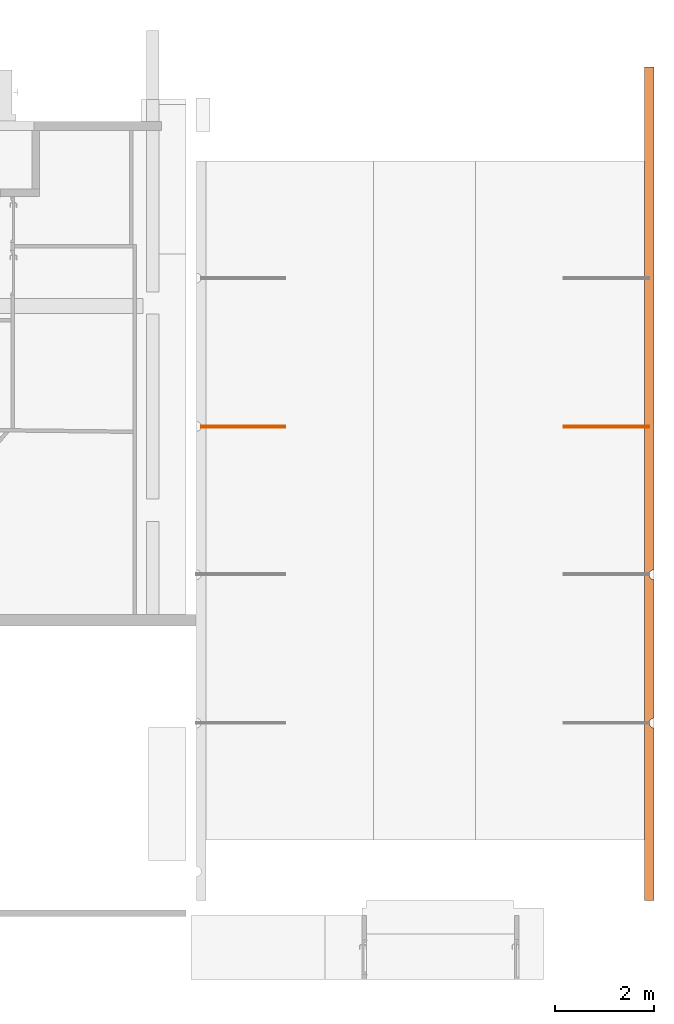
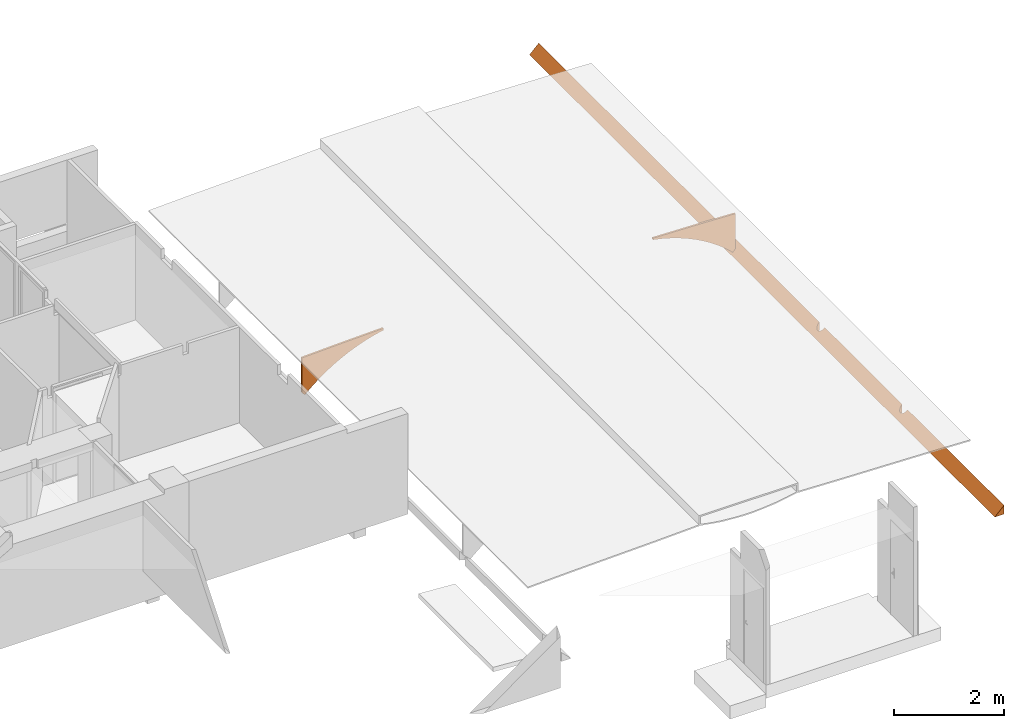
# One storey, part 31 of 32: 2 proxies.
"""IFC4 building model written with IfcOpenShell, lengths in metres."""

import ifcopenshell
import ifcopenshell.guid

model = None  # the IFC model being written
_history = None  # IfcOwnerHistory: only IFC2X3 demands one
_inside = {}  # id of a spatial element -> (the spatial element, [elements in it])
_under = {}  # id of a project, library or spatial element -> (it, [spatial elements below it])
_declared = {}  # id of a project -> (the project, [libraries it declares])
_typed = {}  # id of a type object -> (the type object, [elements of that type])
_made_of = {}  # id of a material, layer set ... -> (it, [elements and type objects made of it])


def new_model(schema):
    """Start an empty IFC model of exactly this schema.

    Asked for "IFC4X3", IfcOpenShell would pick the latest addendum, in which some entities
    have other attributes; the version numbers below select the first issue.
    IFC2X3 requires an IfcOwnerHistory on every rooted entity: one is made here for all.
    """
    global model, _history
    if schema == "IFC4X3":
        model = ifcopenshell.file(schema_version=(4, 3, 0, 0))
    else:
        model = ifcopenshell.file(schema=schema)
    _inside.clear()
    _under.clear()
    _declared.clear()
    _typed.clear()
    _made_of.clear()
    _history = None
    if model.schema == "IFC2X3":
        org = make("IfcOrganization", Name="unknown")
        user = make(
            "IfcPersonAndOrganization",
            ThePerson=make("IfcPerson", FamilyName="unknown"),
            TheOrganization=org,
        )
        app = make(
            "IfcApplication",
            ApplicationDeveloper=org,
            Version="unknown",
            ApplicationFullName="unknown",
            ApplicationIdentifier="unknown",
        )
        _history = make(
            "IfcOwnerHistory",
            OwningUser=user,
            OwningApplication=app,
            ChangeAction="ADDED",
            CreationDate=0,
        )
    return model


def make(cls, **values):
    """One entity of the class cls with the attributes given. An attribute that is None is left unset."""
    return model.create_entity(
        cls, **{name: value for name, value in values.items() if value is not None}
    )


def entity(cls, *values):
    """Any entity or typed value of the class cls, its attributes in the order of the schema. None: left unset."""
    e = model.create_entity(cls)
    for i, value in enumerate(values):
        if value is not None:
            e[i] = value
    return e


def rooted(cls, **values):
    """An entity with a GlobalId (a new one), such as an element, a storey or a relation."""
    return make(cls, GlobalId=ifcopenshell.guid.new(), OwnerHistory=_history, **values)


def si_unit(unit_type, name, prefix=None):
    """IfcSIUnit, for example si_unit("LENGTHUNIT", "METRE", prefix="MILLI")."""
    return make("IfcSIUnit", UnitType=unit_type, Prefix=prefix, Name=name)


def converted_unit(unit_type, name, factor, base, dimensions=None, offset=None):
    """IfcConversionBasedUnit, such as the inch: factor (a typed value) times the base unit."""
    return make(
        "IfcConversionBasedUnit"
        if offset is None
        else "IfcConversionBasedUnitWithOffset",
        ConversionOffset=offset,
        Dimensions=None
        if dimensions is None
        else entity("IfcDimensionalExponents", *dimensions),
        UnitType=unit_type,
        Name=name,
        ConversionFactor=make(
            "IfcMeasureWithUnit", ValueComponent=factor, UnitComponent=base
        ),
    )


def derived_unit(unit_type, elements):
    """IfcDerivedUnit: a product of units, each with its exponent."""
    return make(
        "IfcDerivedUnit",
        Elements=[
            make("IfcDerivedUnitElement", Unit=unit, Exponent=power)
            for unit, power in elements
        ],
        UnitType=unit_type,
    )


def assignment(units):
    """IfcUnitAssignment: the units of a project."""
    return None if units is None else make("IfcUnitAssignment", Units=units)


def point(xyz):
    """IfcCartesianPoint."""
    return None if xyz is None else make("IfcCartesianPoint", Coordinates=xyz)


def direction(xyz):
    """IfcDirection."""
    return None if xyz is None else make("IfcDirection", DirectionRatios=xyz)


def frame(location, z_axis=None, x_axis=None):
    """IfcAxis2Placement3D, a coordinate frame: its origin and axes. An axis left out is left unset."""
    return make(
        "IfcAxis2Placement3D",
        Location=point(location),
        Axis=direction(z_axis),
        RefDirection=direction(x_axis),
    )


def origin():
    """The frame at (0, 0, 0) with its axes left unset."""
    return frame((0.0, 0.0, 0.0))


def place(relative_to, where):
    """IfcLocalPlacement: puts the frame where relative to a parent placement (None: the world)."""
    return make(
        "IfcLocalPlacement", PlacementRelTo=relative_to, RelativePlacement=where
    )


def context(
    kind, dimensions, precision=None, world=None, true_north=None, identifier=None
):
    """IfcGeometricRepresentationContext, for example the 3D "Model" context."""
    return make(
        "IfcGeometricRepresentationContext",
        ContextIdentifier=identifier,
        ContextType=kind,
        CoordinateSpaceDimension=dimensions,
        Precision=precision,
        WorldCoordinateSystem=world,
        TrueNorth=true_north,
    )


def subcontext(parent, identifier, kind, view, scale=None):
    """IfcGeometricRepresentationSubContext, for example "Body" below "Model"."""
    return make(
        "IfcGeometricRepresentationSubContext",
        ContextIdentifier=identifier,
        ContextType=kind,
        ParentContext=parent,
        TargetScale=scale,
        TargetView=view,
    )


def project(units=None, contexts=None):
    """IfcProject with its units and contexts."""
    return rooted(
        "IfcProject",
        Name="project",
        RepresentationContexts=contexts,
        UnitsInContext=assignment(units),
    )


def spatial(cls, under=None, at=None, **own):
    """A site, building, storey or space (cls), placed at a placement, below another one or the project."""
    s = rooted(cls, ObjectPlacement=at, **own)
    if under is not None:
        _under.setdefault(under.id(), (under, []))[1].append(s)
    return s


def point_list(points):
    """IfcCartesianPointList2D or 3D."""
    cls = (
        "IfcCartesianPointList2D" if len(points[0]) == 2 else "IfcCartesianPointList3D"
    )
    return make(cls, CoordList=points)


def polygons(points, faces, closed=None, point_numbers=None):
    """IfcPolygonalFaceSet: a face is its outer loop, then its inner loops; points numbered from 1."""
    made = []
    for loops in faces:
        if len(loops) == 1:
            made.append(make("IfcIndexedPolygonalFace", CoordIndex=loops[0]))
        else:
            made.append(
                make(
                    "IfcIndexedPolygonalFaceWithVoids",
                    CoordIndex=loops[0],
                    InnerCoordIndices=loops[1:],
                )
            )
    return make(
        "IfcPolygonalFaceSet",
        Coordinates=point_list(points),
        Closed=closed,
        Faces=made,
        PnIndex=point_numbers,
    )


def shape(context_of_items, identifier, shape_type, items):
    """IfcShapeRepresentation: the items that make up one representation, for example the "Body"."""
    return make(
        "IfcShapeRepresentation",
        ContextOfItems=context_of_items,
        RepresentationIdentifier=identifier,
        RepresentationType=shape_type,
        Items=items,
    )


def source(mapping_origin, context_of_items, identifier, shape_type, items):
    """IfcRepresentationMap: a shape defined once, which mapped items show again and again."""
    return make(
        "IfcRepresentationMap",
        MappingOrigin=mapping_origin,
        MappedRepresentation=shape(context_of_items, identifier, shape_type, items),
    )


def transform(
    local_origin,
    x_axis=None,
    y_axis=None,
    z_axis=None,
    scale=None,
    scale2=None,
    scale3=None,
    uniform=True,
):
    """IfcCartesianTransformationOperator3D, or its non-uniform kind. x_axis, y_axis, z_axis: its Axis1, 2, 3."""
    if uniform:
        return make(
            "IfcCartesianTransformationOperator3D",
            Axis1=direction(x_axis),
            Axis2=direction(y_axis),
            LocalOrigin=point(local_origin),
            Scale=scale,
            Axis3=direction(z_axis),
        )
    return make(
        "IfcCartesianTransformationOperator3DnonUniform",
        Axis1=direction(x_axis),
        Axis2=direction(y_axis),
        LocalOrigin=point(local_origin),
        Scale=scale,
        Axis3=direction(z_axis),
        Scale2=scale2,
        Scale3=scale3,
    )


def mapped(mapping_source, mapping_target):
    """IfcMappedItem: shows the shape of a source again, moved by a transform."""
    return make(
        "IfcMappedItem", MappingSource=mapping_source, MappingTarget=mapping_target
    )


def material(Name=None, Category=None):
    """IfcMaterial."""
    return make("IfcMaterial", Name=Name, Category=Category)


def made_of(thing, what):
    """Note that an element or type object is made of a material, layer set ...; save() writes the relation."""
    if what is not None:
        _made_of.setdefault(what.id(), (what, []))[1].append(thing)
    return thing


def type_object(cls, material=None, **own):
    """A type object (cls), such as IfcWallType, which elements share."""
    return made_of(rooted(cls, **own), material)


def type_shapes(of_type, sources):
    """Give a type object the sources (RepresentationMaps) that its elements show as mapped items."""
    of_type.RepresentationMaps = sources


def element(
    cls,
    number,
    at=None,
    inside=None,
    cuts=None,
    type_object=None,
    material=None,
    context=None,
    identifier="Body",
    shape_type=None,
    held_by="IfcProductDefinitionShape",
    body=None,
    shapes=None,
    **own,
):
    """One element of the class cls, such as IfcWall. Its Tag is "e" and its number.

    at: its placement. inside: the storey or other place that contains it. cuts: it is an
    opening in that element (IfcRelVoidsElement). A single representation is given by context,
    identifier, shape_type and body (its items); several are given by shapes. held_by: the class
    of the entity that holds the representations. save() writes the other relations.
    """
    e = rooted(cls, Tag="e%d" % number, ObjectPlacement=at, **own)
    if body is not None:
        shapes = [shape(context, identifier, shape_type, body)]
    if shapes is not None:
        e.Representation = make(held_by, Representations=shapes)
    if inside is not None:
        _inside.setdefault(inside.id(), (inside, []))[1].append(e)
    if cuts is not None:
        rooted(
            "IfcRelVoidsElement", RelatingBuildingElement=cuts, RelatedOpeningElement=e
        )
    if type_object is not None:
        _typed.setdefault(type_object.id(), (type_object, []))[1].append(e)
    return made_of(e, material)


def aggregate(whole, parts):
    """IfcRelAggregates: a whole, such as a stair, and the parts it consists of."""
    return rooted("IfcRelAggregates", RelatingObject=whole, RelatedObjects=parts)


def save(model, path):
    """Write the relations noted so far, then the file.

    IfcRelAggregates (storeys below a building ...), IfcRelContainedInSpatialStructure (elements
    in a storey), IfcRelDefinesByType, IfcRelAssociatesMaterial and IfcRelDeclares: one each for
    every whole, place, type object, material and project.
    """
    for whole, parts in _under.values():
        aggregate(whole, parts)
    for where, things in _inside.values():
        rooted(
            "IfcRelContainedInSpatialStructure",
            RelatedElements=things,
            RelatingStructure=where,
        )
    for kind, things in _typed.values():
        rooted("IfcRelDefinesByType", RelatedObjects=things, RelatingType=kind)
    for what, things in _made_of.values():
        rooted("IfcRelAssociatesMaterial", RelatedObjects=things, RelatingMaterial=what)
    for by, libraries in _declared.values():
        rooted("IfcRelDeclares", RelatingContext=by, RelatedDefinitions=libraries)
    model.write(path)


model = new_model("IFC4")

# Units and contexts
model_context = context("Model", 3, precision=1e-05, world=origin(), true_north=direction((6.12303176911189e-17, 1.0)))
body_context = subcontext(model_context, "Body", "Model", "MODEL_VIEW")
ifc_project = project(units=[si_unit("LENGTHUNIT", "METRE"), si_unit("AREAUNIT", "SQUARE_METRE"), si_unit("VOLUMEUNIT", "CUBIC_METRE"), converted_unit("PLANEANGLEUNIT", "DEGREE", entity("IfcRatioMeasure", 0.0174532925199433), si_unit("PLANEANGLEUNIT", "RADIAN"), dimensions=[0, 0, 0, 0, 0, 0, 0]), si_unit("MASSUNIT", "GRAM", prefix="KILO"), derived_unit("MASSDENSITYUNIT", [(si_unit("MASSUNIT", "GRAM", prefix="KILO"), 1), (si_unit("LENGTHUNIT", "METRE"), -3)]), derived_unit("MOMENTOFINERTIAUNIT", [(si_unit("LENGTHUNIT", "METRE"), 4)]), si_unit("TIMEUNIT", "SECOND"), si_unit("FREQUENCYUNIT", "HERTZ"), si_unit("THERMODYNAMICTEMPERATUREUNIT", "DEGREE_CELSIUS"), derived_unit("THERMALTRANSMITTANCEUNIT", [(si_unit("MASSUNIT", "GRAM", prefix="KILO"), 1), (si_unit("THERMODYNAMICTEMPERATUREUNIT", "KELVIN"), -1), (si_unit("TIMEUNIT", "SECOND"), -3)]), derived_unit("VOLUMETRICFLOWRATEUNIT", [(si_unit("LENGTHUNIT", "METRE"), 3), (si_unit("TIMEUNIT", "SECOND"), -1)]), si_unit("ELECTRICCURRENTUNIT", "AMPERE"), si_unit("ELECTRICVOLTAGEUNIT", "VOLT"), si_unit("POWERUNIT", "WATT"), si_unit("FORCEUNIT", "NEWTON", prefix="KILO"), si_unit("ILLUMINANCEUNIT", "LUX"), si_unit("LUMINOUSFLUXUNIT", "LUMEN"), si_unit("LUMINOUSINTENSITYUNIT", "CANDELA"), derived_unit("USERDEFINED", [(si_unit("MASSUNIT", "GRAM", prefix="KILO"), -1), (si_unit("LENGTHUNIT", "METRE"), -2), (si_unit("TIMEUNIT", "SECOND"), 3), (si_unit("LUMINOUSFLUXUNIT", "LUMEN"), 1)]), derived_unit("LINEARVELOCITYUNIT", [(si_unit("LENGTHUNIT", "METRE"), 1), (si_unit("TIMEUNIT", "SECOND"), -1)]), si_unit("PRESSUREUNIT", "PASCAL"), derived_unit("USERDEFINED", [(si_unit("LENGTHUNIT", "METRE"), -2), (si_unit("MASSUNIT", "GRAM", prefix="KILO"), 1), (si_unit("TIMEUNIT", "SECOND"), -2)]), derived_unit("LINEARFORCEUNIT", [(si_unit("MASSUNIT", "GRAM", prefix="KILO"), 1), (si_unit("LENGTHUNIT", "METRE"), 1), (si_unit("TIMEUNIT", "SECOND"), -2), (si_unit("LENGTHUNIT", "METRE"), -1)]), derived_unit("PLANARFORCEUNIT", [(si_unit("MASSUNIT", "GRAM", prefix="KILO"), 1), (si_unit("LENGTHUNIT", "METRE"), 1), (si_unit("TIMEUNIT", "SECOND"), -2), (si_unit("LENGTHUNIT", "METRE"), -2)])], contexts=[model_context])

# Site, building, storey
site_placement = place(None, origin())
site = spatial("IfcSite", under=ifc_project, at=site_placement, Name="Default", CompositionType="ELEMENT")
building_placement = place(site_placement, origin())
building = spatial("IfcBuilding", under=site, at=building_placement, Name="HOTEL CONSULAIRE BOULOGNE SUR MER", CompositionType="ELEMENT")
storey_placement = place(building_placement, frame((0.0, 0.0, -2.70343668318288)))
storey = spatial("IfcBuildingStorey", under=building, at=storey_placement, Name="SS1", CompositionType="ELEMENT", Elevation=-2.70343668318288)

# Proxies
ifc_material_1 = material(Name="peinture rouge")
building_element_proxy_type_1 = type_object("IfcBuildingElementProxyType", Name="Décoration plafond2:Décoration plafond", PredefinedType="NOTDEFINED", material=ifc_material_1)
shared_shape_1 = source(origin(), body_context, "Body", "Tessellation", [
    polygons([(0.0603541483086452, 0.00159527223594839, 0.0015952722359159), (0.199576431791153, 0.00159527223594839, 0.127213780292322), (0.345678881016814, 0.00159527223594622, 0.244759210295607), (0.498194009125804, 0.00159527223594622, 0.353855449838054), (0.656633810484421, 0.00159527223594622, 0.454153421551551), (0.820491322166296, 0.00159527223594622, 0.545332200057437), (0.989242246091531, 0.00159527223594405, 0.627100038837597), (1.16234662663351, 0.00159527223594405, 0.699195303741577), (1.33925057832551, 0.00159527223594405, 0.761387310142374), (1.51938805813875, 0.00159527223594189, 0.813477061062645), (1.70218267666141, 0.00159527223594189, 0.855297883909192), (1.70218267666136, 0.00159527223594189, 0.894584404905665), (0.851773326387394, 0.00159527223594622, 0.868823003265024), (0.0015952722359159, 0.00159527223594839, 0.83632641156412), (0.0015952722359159, 0.00159527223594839, 0.0603541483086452), (1.70218267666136, 0.0401348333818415, 0.894584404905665), (0.852887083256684, 0.0401348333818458, 0.868861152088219), (0.00382212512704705, 0.040134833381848, 0.836420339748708), (0.00451969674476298, 0.0333458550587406, 0.836449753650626), (0.00475258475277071, 0.0265250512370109, 0.836459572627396), (0.00396110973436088, 0.0139684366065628, 0.836426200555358), (0.358945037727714, 0.00159527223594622, 0.849985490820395), (0.428354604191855, 0.0401348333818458, 0.852640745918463), (0.182497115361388, 0.040134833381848, 0.843247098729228), (0.180270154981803, 0.00159527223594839, 0.843155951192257), (1.27697800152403, 0.00159527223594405, 0.881703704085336), (1.27753487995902, 0.0401348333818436, 0.881722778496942), (1.06521098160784, 0.0401348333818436, 0.87529196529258), (0.605359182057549, 0.00159527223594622, 0.85940424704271), (0.640620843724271, 0.0401348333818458, 0.860750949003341), (1.52345927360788, 0.0401348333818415, 0.889171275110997), (1.48958033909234, 0.00159527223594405, 0.888144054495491), (1.06437566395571, 0.00159527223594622, 0.87526335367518), (0.0603541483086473, 0.040134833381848, 0.00159527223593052), (0.00396011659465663, 0.0139605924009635, 0.0579893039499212), (0.00475258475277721, 0.0265250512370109, 0.0571968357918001), (0.00451969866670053, 0.0333458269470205, 0.0574297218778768), (0.00382212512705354, 0.040134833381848, 0.0581272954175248), (0.19957643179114, 0.040134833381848, 0.127213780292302), (0.345678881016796, 0.0401348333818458, 0.244759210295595), (0.498194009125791, 0.0401348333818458, 0.35385544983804), (0.656633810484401, 0.0401348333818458, 0.45415342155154), (0.820491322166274, 0.0401348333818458, 0.545332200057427), (0.98924224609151, 0.0401348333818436, 0.627100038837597), (1.16234662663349, 0.0401348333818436, 0.699195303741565), (1.33925057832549, 0.0401348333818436, 0.761387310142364), (1.51938805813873, 0.0401348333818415, 0.813477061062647), (1.70218267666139, 0.0401348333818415, 0.855297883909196), (0.00382212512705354, 0.0401348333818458, 0.487249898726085), (0.00475258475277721, 0.0265250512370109, 0.446828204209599), (0.00475258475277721, 0.0265250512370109, 0.23178205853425), (0.00475258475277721, 0.0265250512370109, 0.641643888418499), (0.00382212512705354, 0.040134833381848, 0.272688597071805), (0.00382212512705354, 0.0401348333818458, 0.379969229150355), (0.00382212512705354, 0.040134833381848, 0.661835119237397), (0.00475258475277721, 0.0265250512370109, 0.339305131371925), (0.00475258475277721, 0.0265250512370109, 0.144489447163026), (0.00382212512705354, 0.040134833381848, 0.165407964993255), (0.00382212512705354, 0.040134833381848, 0.21904828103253), (0.00382212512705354, 0.040134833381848, 0.749127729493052), (0.00475258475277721, 0.0265250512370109, 0.739051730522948), (0.00382212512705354, 0.0401348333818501, 0.792774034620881), (0.00454564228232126, 0.0329551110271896, 0.770950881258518), (0.00382212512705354, 0.040134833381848, 0.101773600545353), (0.00455953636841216, 0.0327357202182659, 0.192228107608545), (0.00448840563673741, 0.033789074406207, 0.713608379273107), (0.00449328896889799, 0.0337217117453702, 0.245868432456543), (0.00475258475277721, 0.0265250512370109, 0.285543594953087), (0.00382212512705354, 0.0401348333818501, 0.32632891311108), (0.0044942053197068, 0.0337090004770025, 0.298691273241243), (0.0044929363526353, 0.0337265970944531, 0.353149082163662), (0.00475258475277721, 0.0265250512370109, 0.393066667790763), (0.00382212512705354, 0.040134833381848, 0.43360954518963), (0.00449393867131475, 0.0337127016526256, 0.405926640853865), (0.00449258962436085, 0.033731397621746, 0.460429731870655), (0.00475258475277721, 0.0265250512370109, 0.544236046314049), (0.00382212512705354, 0.040134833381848, 0.574542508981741), (0.00451423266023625, 0.0334253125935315, 0.516709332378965), (0.00454568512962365, 0.0329544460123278, 0.568335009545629), (0.00382212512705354, 0.0401348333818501, 0.618188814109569), (0.00449574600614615, 0.0336875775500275, 0.640011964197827), (0.00475258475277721, 0.0265250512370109, 0.592939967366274), (0.00475258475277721, 0.0265250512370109, 0.787755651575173), (0.00449019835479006, 0.0337644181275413, 0.141083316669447), (0.00475258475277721, 0.0265250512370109, 0.495532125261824), (0.00475258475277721, 0.0265250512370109, 0.690347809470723), (0.00159527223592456, 0.00159527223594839, 0.487156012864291), (0.00475258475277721, 0.0265250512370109, 0.661874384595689), (0.00159527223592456, 0.00159527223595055, 0.273755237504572), (0.00475258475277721, 0.0265250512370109, 0.252012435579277), (0.00475258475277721, 0.0265250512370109, 0.349420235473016), (0.00159527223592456, 0.00159527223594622, 0.661741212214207), (0.00159527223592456, 0.00159527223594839, 0.147647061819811), (0.00159527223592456, 0.00159527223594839, 0.380455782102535), (0.00475258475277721, 0.0265250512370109, 0.7491668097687), (0.00395954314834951, 0.0139560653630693, 0.705520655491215), (0.00475258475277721, 0.0265250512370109, 0.554351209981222), (0.0038813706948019, 0.0133537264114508, 0.600777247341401), (0.00403907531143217, 0.0146005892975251, 0.300716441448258), (0.0040583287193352, 0.0147620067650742, 0.39812428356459), (0.00406420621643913, 0.0148117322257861, 0.494115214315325), (0.00159527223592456, 0.00159527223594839, 0.749033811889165), (0.00159527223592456, 0.00159527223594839, 0.574448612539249), (0.00396061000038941, 0.0139644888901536, 0.147654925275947)], [[[5, 6, 7, 8, 9, 10, 11, 12, 32, 26, 33, 13, 29, 22, 25, 14, 102, 92, 103, 87, 94, 89, 93, 15, 1, 2, 3, 4]], [[27, 28, 26]], [[23, 22, 29]], [[20, 24, 19]], [[13, 17, 30]], [[13, 30, 29]], [[25, 24, 20]], [[22, 24, 25]], [[22, 23, 24]], [[25, 20, 21]], [[19, 24, 18]], [[23, 29, 30]], [[32, 27, 26]], [[32, 12, 31]], [[17, 33, 28]], [[21, 14, 25]], [[12, 16, 31]], [[27, 32, 31]], [[33, 17, 13]], [[33, 26, 28]], [[1, 15, 35, 36, 37, 38, 34]], [[2, 1, 34, 39]], [[4, 3, 40, 41]], [[40, 3, 2, 39]], [[5, 4, 41, 42]], [[42, 43, 6, 5]], [[8, 7, 44, 45]], [[10, 9, 46, 47]], [[46, 9, 8, 45]], [[11, 10, 47, 48]], [[6, 43, 44, 7]], [[12, 11, 48, 16]], [[16, 48, 47, 46, 45, 44, 43, 42, 41, 40, 39, 34, 38, 64, 58, 59, 53, 69, 54, 73, 49, 77, 80, 55, 60, 62, 18, 24, 23, 30, 17, 28, 27, 31]], [[55, 81, 66]], [[67, 51, 90, 68]], [[36, 84, 37]], [[80, 81, 55]], [[67, 53, 59]], [[19, 18, 62]], [[64, 38, 37]], [[84, 64, 37]], [[72, 50, 74]], [[66, 61, 63]], [[68, 56, 70]], [[85, 75, 50]], [[71, 56, 91, 72]], [[65, 58, 84]], [[65, 59, 58]], [[65, 67, 59]], [[63, 60, 66]], [[63, 19, 62]], [[63, 83, 19]], [[60, 63, 62]], [[36, 57, 84]], [[65, 57, 51]], [[57, 65, 84]], [[81, 82, 52, 88, 86]], [[66, 60, 55]], [[67, 70, 53]], [[51, 67, 65]], [[70, 67, 68]], [[70, 69, 53]], [[69, 71, 54]], [[71, 69, 70]], [[71, 74, 54]], [[56, 71, 70]], [[74, 71, 72]], [[74, 73, 54]], [[73, 75, 49]], [[75, 73, 74]], [[78, 76, 79]], [[50, 75, 74]], [[78, 75, 85]], [[49, 75, 78]], [[78, 77, 49]], [[77, 78, 79]], [[80, 77, 79]], [[79, 82, 81]], [[66, 81, 86]], [[79, 81, 80]], [[20, 19, 83]], [[79, 76, 97, 82]], [[63, 61, 95, 83]], [[84, 58, 64]], [[85, 76, 78]], [[86, 61, 66]], [[100, 94, 87]], [[99, 91, 56, 68, 90]], [[100, 50, 72, 91]], [[96, 95, 61, 86, 88]], [[98, 96, 88]], [[57, 36, 35]], [[104, 35, 15]], [[96, 21, 95]], [[35, 104, 57]], [[98, 88, 52, 82, 97]], [[90, 104, 99]], [[92, 96, 98]], [[96, 102, 21]], [[89, 94, 99]], [[15, 93, 89, 104]], [[21, 20, 83, 95]], [[103, 92, 98]], [[87, 101, 100]], [[87, 103, 101]], [[98, 101, 103]], [[100, 91, 99]], [[101, 50, 100]], [[94, 100, 99]], [[101, 97, 76, 85, 50]], [[97, 101, 98]], [[14, 21, 102]], [[96, 92, 102]], [[104, 90, 51, 57]], [[99, 104, 89]]], closed=True),
    polygons([(9.00787298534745, 0.0401348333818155, 0.019413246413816), (8.86671712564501, 0.0401348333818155, 0.146678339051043), (8.71849990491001, 0.0401348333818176, 0.265644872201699), (8.56370850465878, 0.0401348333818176, 0.375921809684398), (8.40285171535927, 0.0401348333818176, 0.477146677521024), (8.23645826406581, 0.0401348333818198, 0.568986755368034), (8.06507507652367, 0.0401348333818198, 0.651140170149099), (7.88926547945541, 0.0401348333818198, 0.723336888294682), (7.7096073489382, 0.0401348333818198, 0.785339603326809), (7.52669121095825, 0.040134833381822, 0.836944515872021), (7.34111830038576, 0.040134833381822, 0.877982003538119), (7.34111830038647, 0.040134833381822, 0.913055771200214), (8.2028247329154, 0.0401348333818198, 0.887107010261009), (9.0642945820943, 0.0401348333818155, 0.854242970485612), (9.0642945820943, 0.0401348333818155, 0.0758348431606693), (7.34111830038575, 0.0015952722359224, 0.877982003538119), (7.34111830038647, 0.0015952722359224, 0.913055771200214), (9.00787298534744, 0.0015952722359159, 0.0194132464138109), (8.86671712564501, 0.0015952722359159, 0.14667833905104), (8.71849990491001, 0.00159527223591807, 0.2656448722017), (8.56370850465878, 0.00159527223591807, 0.375921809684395), (8.40285171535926, 0.00159527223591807, 0.477146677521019), (8.23645826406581, 0.00159527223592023, 0.568986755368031), (8.06507507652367, 0.00159527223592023, 0.651140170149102), (7.88926547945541, 0.00159527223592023, 0.723336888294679), (7.7096073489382, 0.00159527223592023, 0.785339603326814), (7.52669121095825, 0.0015952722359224, 0.836944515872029), (9.06359700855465, 0.0333458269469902, 0.0751372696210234), (9.06336412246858, 0.0265250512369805, 0.0749043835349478), (9.0641565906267, 0.013960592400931, 0.0756968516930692), (9.06652143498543, 0.0015952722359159, 0.078061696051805), (8.20393849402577, 0.00159527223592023, 0.88706899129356), (9.06652143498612, 0.00159527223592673, 0.854149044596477), (9.06415559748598, 0.013968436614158, 0.854248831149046), (9.06336412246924, 0.0265250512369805, 0.85428220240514), (9.06359701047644, 0.0333458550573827, 0.854272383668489), (8.70694382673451, 0.0401348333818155, 0.867875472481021), (8.63522996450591, 0.00159527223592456, 0.87060901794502), (8.88784616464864, 0.00159527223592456, 0.860968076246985), (8.88561920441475, 0.0401348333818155, 0.861059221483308), (7.77252839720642, 0.00159527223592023, 0.900062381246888), (7.77197151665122, 0.0401348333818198, 0.900081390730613), (7.51984263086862, 0.0401348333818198, 0.907673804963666), (8.45488427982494, 0.0401348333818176, 0.877491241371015), (8.41958422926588, 0.0015952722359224, 0.878839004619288), (7.98823344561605, 0.0015952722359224, 0.893565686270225), (7.98739812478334, 0.040134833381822, 0.89359420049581), (7.55682334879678, 0.0015952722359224, 0.906559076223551), (9.0642945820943, 0.0401348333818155, 0.505072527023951), (9.06336412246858, 0.0265250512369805, 0.464593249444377), (9.06336412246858, 0.0265250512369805, 0.659437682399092), (9.06336412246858, 0.0265250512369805, 0.766989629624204), (9.0642945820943, 0.0401348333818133, 0.29045364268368), (9.0642945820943, 0.0401348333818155, 0.679657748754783), (9.06336412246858, 0.0265250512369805, 0.269748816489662), (9.06336412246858, 0.0265250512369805, 0.162197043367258), (9.0642945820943, 0.0401348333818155, 0.183144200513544), (9.0642945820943, 0.0401348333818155, 0.119481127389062), (9.0642945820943, 0.0401348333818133, 0.76695040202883), (9.0642945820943, 0.0401348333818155, 0.397763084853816), (9.06336412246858, 0.0265250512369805, 0.36717103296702), (9.0642945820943, 0.0401348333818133, 0.592365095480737), (9.06336412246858, 0.0265250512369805, 0.562015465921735), (9.06336412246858, 0.0265250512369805, 0.713213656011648), (9.06359690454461, 0.0333443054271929, 0.740101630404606), (9.0635958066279, 0.0333282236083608, 0.797187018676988), (9.06356473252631, 0.03285606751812, 0.686325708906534), (9.06360736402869, 0.0334956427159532, 0.62744898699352), (9.06359887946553, 0.0333731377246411, 0.576566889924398), (9.06336412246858, 0.0265250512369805, 0.513304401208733), (9.06358085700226, 0.0331053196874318, 0.488948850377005), (9.063589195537, 0.0332305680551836, 0.429983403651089), (9.0642945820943, 0.0401348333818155, 0.451417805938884), (9.0642945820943, 0.0401348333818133, 0.548718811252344), (9.06360769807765, 0.0335004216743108, 0.378965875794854), (9.06336412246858, 0.0265250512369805, 0.318459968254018), (9.0642945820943, 0.0401348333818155, 0.344108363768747), (9.06356927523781, 0.0329272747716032, 0.294104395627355), (9.06336412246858, 0.0265250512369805, 0.21597292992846), (9.0642945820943, 0.0401348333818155, 0.236798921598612), (9.06363196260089, 0.0338391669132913, 0.20997161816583), (9.06362810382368, 0.0337863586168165, 0.15809842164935), (9.06352176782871, 0.0321379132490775, 0.532929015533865), (9.06336412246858, 0.0265250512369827, 0.610726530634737), (9.06336412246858, 0.0265250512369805, 0.415882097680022), (9.06652143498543, 0.0015952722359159, 0.504978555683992), (9.06336412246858, 0.0265250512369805, 0.249489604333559), (9.06652143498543, 0.0015952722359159, 0.291520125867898), (9.06336412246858, 0.0265250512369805, 0.679696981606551), (9.06652143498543, 0.0015952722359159, 0.679563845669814), (9.06652143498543, 0.0015952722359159, 0.165354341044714), (9.06415716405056, 0.0139560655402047, 0.723343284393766), (9.06336412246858, 0.0265250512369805, 0.57214509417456), (9.06414356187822, 0.014063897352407, 0.205843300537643), (9.06423527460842, 0.0133541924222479, 0.618593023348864), (9.06336412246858, 0.0265250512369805, 0.35704149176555), (9.06652143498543, 0.0015952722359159, 0.398249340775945), (9.06404951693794, 0.0148370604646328, 0.521792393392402), (9.06412249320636, 0.0142328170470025, 0.426146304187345), (9.06652143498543, 0.0015952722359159, 0.766856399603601), (9.06419769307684, 0.0136402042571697, 0.3305694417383), (9.06652143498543, 0.0015952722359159, 0.592271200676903)], [[[8, 9, 10, 11, 12, 43, 42, 47, 13, 44, 37, 40, 14, 59, 54, 62, 74, 49, 73, 60, 77, 53, 80, 57, 58, 15, 1, 2, 3, 4, 5, 6, 7]], [[16, 17, 12, 11]], [[11, 10, 27, 16]], [[8, 7, 24, 25]], [[9, 8, 25, 26]], [[10, 9, 26, 27]], [[6, 23, 24, 7]], [[5, 4, 21, 22]], [[2, 1, 18, 19]], [[3, 2, 19, 20]], [[4, 3, 20, 21]], [[6, 5, 22, 23]], [[31, 18, 1, 15, 28, 29, 30]], [[34, 35, 39]], [[45, 38, 44]], [[35, 36, 40]], [[40, 39, 35]], [[39, 33, 34]], [[13, 45, 44]], [[41, 42, 48]], [[12, 17, 43]], [[36, 14, 40]], [[48, 42, 43]], [[46, 13, 47]], [[13, 32, 45]], [[41, 47, 42]], [[37, 39, 40]], [[38, 37, 44]], [[39, 37, 38]], [[47, 41, 46]], [[46, 32, 13]], [[43, 17, 48]], [[18, 31, 91, 88, 97, 86, 102, 90, 100, 33, 39, 38, 45, 32, 46, 41, 48, 17, 16, 27, 26, 25, 24, 23, 22, 21, 20, 19]], [[71, 50, 72]], [[81, 78, 55]], [[35, 66, 36]], [[83, 49, 74]], [[82, 56, 29]], [[75, 78, 77]], [[59, 66, 65]], [[66, 59, 14]], [[65, 67, 54]], [[68, 84, 69]], [[56, 82, 81]], [[81, 80, 78]], [[15, 58, 28]], [[82, 29, 28]], [[70, 71, 83]], [[67, 64, 89, 51]], [[51, 68, 67]], [[61, 96, 76, 75, 85]], [[52, 65, 66]], [[64, 65, 52]], [[59, 65, 54]], [[52, 66, 35]], [[14, 36, 66]], [[64, 67, 65]], [[62, 54, 68]], [[67, 68, 54]], [[69, 62, 68]], [[71, 49, 83]], [[70, 50, 71]], [[63, 83, 69]], [[74, 62, 69]], [[72, 73, 71]], [[60, 72, 75]], [[72, 85, 75]], [[49, 71, 73]], [[72, 60, 73]], [[78, 80, 53, 77]], [[77, 60, 75]], [[78, 76, 55]], [[75, 76, 78]], [[81, 55, 87, 79, 56]], [[57, 80, 81]], [[82, 57, 81]], [[82, 58, 57]], [[58, 82, 28]], [[70, 83, 63]], [[69, 83, 74]], [[69, 84, 93, 63]], [[68, 51, 84]], [[72, 50, 85]], [[94, 56, 79, 87]], [[101, 88, 94]], [[98, 50, 70, 63, 93]], [[95, 93, 84, 51, 89]], [[91, 30, 94]], [[92, 34, 100]], [[56, 94, 30]], [[34, 33, 100]], [[90, 95, 92]], [[86, 97, 99]], [[91, 31, 30]], [[92, 89, 64, 52]], [[52, 35, 34]], [[92, 52, 34]], [[89, 92, 95]], [[30, 29, 56]], [[91, 94, 88]], [[93, 95, 98]], [[95, 102, 98]], [[101, 99, 97]], [[87, 101, 94]], [[98, 86, 99]], [[99, 50, 98]], [[99, 96, 61, 85, 50]], [[96, 99, 101]], [[100, 90, 92]], [[101, 87, 55, 76, 96]], [[88, 101, 97]], [[86, 98, 102]], [[95, 90, 102]]], closed=True),
])
type_shapes(building_element_proxy_type_1, [shared_shape_1])
proxy_1_placement = place(storey_placement, frame((12.4615870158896, -18.161434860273, 0.357702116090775)))
element("IfcBuildingElementProxy", 1, at=proxy_1_placement, inside=storey, type_object=building_element_proxy_type_1, material=ifc_material_1, Name="Décoration plafond2:Décoration plafond", ObjectType="Décoration plafond2:Décoration plafond", PredefinedType="NOTDEFINED", context=body_context, shape_type="MappedRepresentation", body=[
    mapped(shared_shape_1, transform((0.0, 0.0, 0.0), scale=1.0)),
])
ifc_material_2 = material(Name="peinture bleu")
building_element_proxy_type_2 = type_object("IfcBuildingElementProxyType", Name="Corniche amphithéâtre 2:Corniche amphithéâtre 2", PredefinedType="NOTDEFINED", material=ifc_material_2)
shared_shape_2 = source(origin(), body_context, "Body", "Tessellation", [
    polygons([(0.19171583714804, 16.8555099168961, 0.0), (3.0320279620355e-14, 16.8555099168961, 1.62430069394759e-15), (0.19171583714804, 16.8555099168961, 0.191715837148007), (0.191715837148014, 0.0, 0.0), (0.191715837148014, 0.0, 0.191715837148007), (4.33146851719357e-15, 0.0, 5.41433564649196e-16), (0.191715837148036, 12.68879363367, 0.0), (0.191715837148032, 12.4890329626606, 0.0), (0.191715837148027, 9.68879363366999, 0.0), (0.191715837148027, 9.48903296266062, 0.0), (0.191715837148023, 6.68879363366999, 0.0), (0.166808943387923, 6.68437064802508, 0.0), (0.143808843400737, 6.67383919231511, 2.70716782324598e-16), (0.124187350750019, 6.6578731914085, 2.70716782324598e-16), (0.109200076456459, 6.63749433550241, 2.70716782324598e-16), (0.0998060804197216, 6.61400670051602, 2.70716782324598e-16), (0.0966064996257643, 6.58891329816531, 2.70716782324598e-16), (0.0998060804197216, 6.56381989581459, 2.70716782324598e-16), (0.109200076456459, 6.54033226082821, 2.70716782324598e-16), (0.124187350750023, 6.51995340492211, 2.70716782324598e-16), (0.143808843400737, 6.5039874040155, 2.70716782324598e-16), (0.166808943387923, 6.49345594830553, 0.0), (0.191715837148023, 6.48903296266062, 0.0), (0.191715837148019, 3.68879363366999, 0.0), (0.166808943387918, 3.68437064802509, 0.0), (0.143808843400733, 3.67383919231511, 2.70716782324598e-16), (0.124187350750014, 3.6578731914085, 2.70716782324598e-16), (0.109200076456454, 3.63749433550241, 2.70716782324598e-16), (0.0998060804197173, 3.61400670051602, 2.70716782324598e-16), (0.09660649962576, 3.58891329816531, 2.70716782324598e-16), (0.0998060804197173, 3.56381989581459, 2.70716782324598e-16), (0.109200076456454, 3.54033226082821, 2.70716782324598e-16), (0.124187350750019, 3.51995340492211, 2.70716782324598e-16), (0.143808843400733, 3.50398740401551, 2.70716782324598e-16), (0.166808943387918, 3.49345594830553, 0.0), (0.191715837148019, 3.48903296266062, 0.0), (0.191715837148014, 0.688793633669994, 0.0), (0.191715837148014, 0.489032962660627, 0.0), (0.191715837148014, 0.489032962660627, 0.191715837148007), (0.191715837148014, 0.688793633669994, 0.191715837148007), (0.191715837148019, 3.48903296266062, 0.191715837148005), (0.170286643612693, 3.4924391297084, 0.17028664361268), (0.15009662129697, 3.50038741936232, 0.150096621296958), (0.132096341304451, 3.51250361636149, 0.132096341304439), (0.117133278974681, 3.52821727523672, 0.11713327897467), (0.105911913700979, 3.5467885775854, 0.105911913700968), (0.098960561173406, 3.56734316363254, 0.0989605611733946), (0.096606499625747, 3.58891329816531, 0.0966064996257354), (0.098960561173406, 3.61048343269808, 0.0989605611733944), (0.105911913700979, 3.63103801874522, 0.105911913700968), (0.117133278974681, 3.64960932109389, 0.11713327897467), (0.132096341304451, 3.66532297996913, 0.132096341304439), (0.15009662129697, 3.6774391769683, 0.150096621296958), (0.170286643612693, 3.68538746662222, 0.17028664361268), (0.191715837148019, 3.68879363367, 0.191715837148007), (0.191715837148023, 6.48903296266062, 0.191715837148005), (0.170286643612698, 6.4924391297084, 0.17028664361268), (0.150096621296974, 6.50038741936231, 0.150096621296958), (0.132096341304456, 6.51250361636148, 0.132096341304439), (0.117133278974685, 6.52821727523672, 0.11713327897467), (0.105911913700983, 6.5467885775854, 0.105911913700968), (0.0989605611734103, 6.56734316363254, 0.0989605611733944), (0.0966064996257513, 6.58891329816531, 0.0966064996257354), (0.0989605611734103, 6.61048343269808, 0.0989605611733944), (0.105911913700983, 6.63103801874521, 0.105911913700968), (0.117133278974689, 6.64960932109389, 0.117133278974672), (0.132096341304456, 6.66532297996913, 0.132096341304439), (0.150096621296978, 6.6774391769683, 0.15009662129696), (0.170286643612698, 6.68538746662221, 0.17028664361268), (0.191715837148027, 6.68879363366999, 0.191715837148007), (0.191715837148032, 9.48903296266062, 0.191715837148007), (0.191715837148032, 9.68879363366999, 0.191715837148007), (0.191715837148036, 12.4890329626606, 0.191715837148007), (0.191715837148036, 12.68879363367, 0.191715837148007)], [[[2, 3, 1]], [[4, 5, 6]], [[7, 8, 9, 10, 11, 12, 13, 14, 15, 16, 17, 18, 19, 20, 21, 22, 23, 24, 25, 26, 27, 28, 29, 30, 31, 32, 33, 34, 35, 36, 37, 38, 4, 6, 2, 1]], [[64, 65, 66, 67, 68, 69, 70, 71, 72, 73, 74, 3, 2, 6, 5, 39, 40, 41, 42, 43, 44, 45, 46, 47, 48, 49, 50, 51, 52, 53, 54, 55, 56, 57, 58, 59, 60, 61, 62, 63]], [[7, 1, 3, 74, 73, 72, 71, 70, 11, 10, 9, 8]], [[23, 56, 55, 24]], [[41, 40, 39, 5, 4, 38, 37, 36]], [[12, 11, 69]], [[25, 24, 54]], [[13, 12, 68]], [[26, 25, 53]], [[11, 70, 69]], [[24, 55, 54]], [[13, 68, 67]], [[26, 53, 52]], [[68, 12, 69]], [[53, 25, 54]], [[67, 14, 13]], [[52, 27, 26]], [[15, 14, 66]], [[28, 27, 51]], [[64, 17, 16]], [[49, 30, 29]], [[16, 15, 65]], [[29, 28, 50]], [[15, 66, 65]], [[28, 51, 50]], [[17, 64, 63]], [[30, 49, 48]], [[64, 16, 65]], [[49, 29, 50]], [[67, 66, 14]], [[52, 51, 27]], [[61, 19, 18]], [[46, 32, 31]], [[62, 18, 17]], [[47, 31, 30]], [[17, 63, 62]], [[30, 48, 47]], [[19, 61, 60]], [[32, 46, 45]], [[61, 18, 62]], [[46, 31, 47]], [[60, 20, 19]], [[45, 33, 32]], [[59, 21, 20]], [[44, 34, 33]], [[57, 23, 22]], [[42, 36, 35]], [[58, 22, 21]], [[43, 35, 34]], [[21, 59, 58]], [[34, 44, 43]], [[23, 57, 56]], [[36, 42, 41]], [[57, 22, 58]], [[42, 35, 43]], [[60, 59, 20]], [[45, 44, 33]]], closed=True),
])
type_shapes(building_element_proxy_type_2, [shared_shape_2])
proxy_2_placement = place(storey_placement, frame((21.4283446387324, -27.7238231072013, 0.336)))
element("IfcBuildingElementProxy", 2, at=proxy_2_placement, inside=storey, type_object=building_element_proxy_type_2, material=ifc_material_2, Name="Corniche amphithéâtre 2:Corniche amphithéâtre 2", ObjectType="Corniche amphithéâtre 2:Corniche amphithéâtre 2", PredefinedType="NOTDEFINED", context=body_context, shape_type="MappedRepresentation", body=[
    mapped(shared_shape_2, transform((0.0, 0.0, 0.0), scale=1.0)),
])

save(model, "model.ifc")
